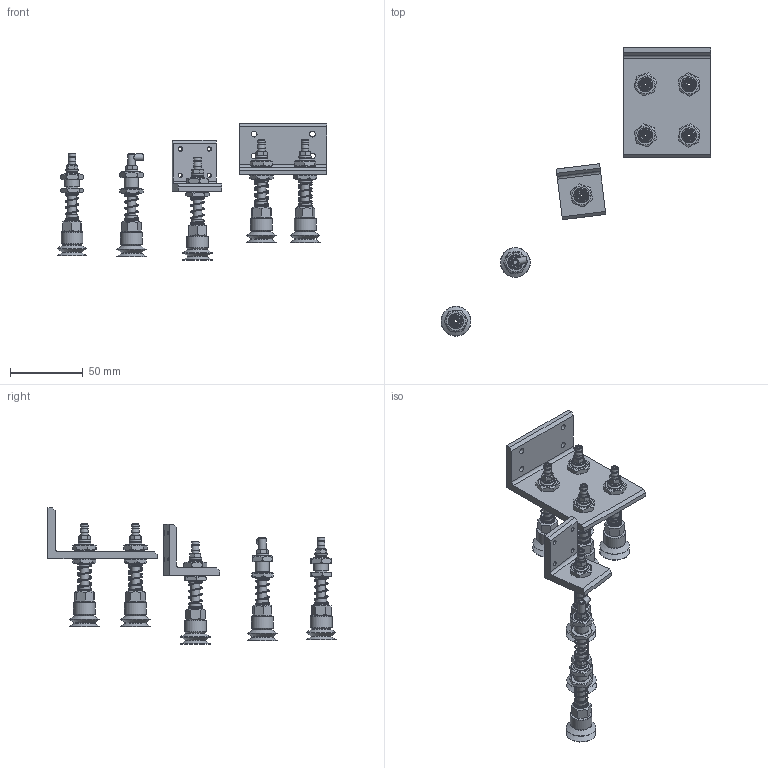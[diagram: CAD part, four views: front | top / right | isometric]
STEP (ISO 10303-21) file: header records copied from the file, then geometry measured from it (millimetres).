
FILE_DESCRIPTION(/* description */ (''),/* implementation_level */ '2;1');
FILE_NAME(/* name */ 'C:\Users\admin\Desktop\inventor\ventose pneumatiche\step\ventose.stp',/* time_stamp */ '2021-08-26T10:36:26+02:00',/* author */ ('admin'),/* organization */ (''),/* preprocessor_version */ 'ST-DEVELOPER v18.1',/* originating_system */ 'Autodesk Inventor 2022',/* authorisation */ '');
FILE_SCHEMA (('AUTOMOTIVE_DESIGN { 1 0 10303 214 3 1 1 }'));
Length unit declared in the file: millimetre
Products named in the file (15): Assieme_ventose; assieme_ventosa_pneumatica_silicone_90; attacco_90; assieme_ventosa_pneumatica_1x; assieme_ventosa_pneumatica_x4_v2; fermo_x4_ventosa; assieme_ventosa_pneumatica; R.03.01.Cup2; R.03.02.Tube; R.03.03.Spring; R.03.06.Nut; R.03.05.Interface; R.03.04.Fitting; DIN 3771 - 5 x 1,8 - N - NBR 70(2); fermo_ventosa
Assembly tree (31 placements, depth 4):
  Assieme_ventose
    assieme_ventosa_pneumatica_silicone_90
      R.03.01.Cup2
      R.03.02.Tube
      R.03.03.Spring
      R.03.06.Nut
      R.03.05.Interface
      DIN 3771 - 5 x 1,8 - N - NBR 70(2)
      attacco_90
    assieme_ventosa_pneumatica
      R.03.01.Cup2
      R.03.02.Tube
      R.03.03.Spring
      R.03.06.Nut
      R.03.05.Interface
      R.03.04.Fitting
      DIN 3771 - 5 x 1,8 - N - NBR 70(2)
    assieme_ventosa_pneumatica_1x
      R.03.01.Cup2
      R.03.02.Tube
      R.03.03.Spring
      R.03.06.Nut
      R.03.05.Interface
      R.03.04.Fitting
      DIN 3771 - 5 x 1,8 - N - NBR 70(2)
    assieme_ventosa_pneumatica_x4_v2
      fermo_x4_ventosa
      assieme_ventosa_pneumatica  x4
        R.03.01.Cup2
        R.03.02.Tube
        R.03.03.Spring
        R.03.06.Nut
        R.03.05.Interface
        R.03.04.Fitting
        DIN 3771 - 5 x 1,8 - N - NBR 70(2)
    fermo_ventosa
Bounding box: 185.19 x 197.64 x 93.46 mm (x, y, z)
Volume: 76727.1 mm3; surface area: 64461 mm2
Topology: 51 solids, 51 shells, 925 faces, 2015 edges, 1279 vertices
Faces by surface type: plane 391, cone 188, cylinder 156, torus 99, bspline 91
Full cylindrical faces by diameter (mm): 2 x7, 2.5 x7, 3 x12, 4 x4, 4.5 x1, 5 x35, 5.25 x6, 6 x14, 7 x14, 8 x14, 8.5 x7, 10 x19, 15 x7, 20.5 x7
Entity records: 7927 total; most frequent: CARTESIAN_POINT 2969, DIRECTION 958, ORIENTED_EDGE 850, EDGE_CURVE 425, AXIS2_PLACEMENT_3D 396, VERTEX_POINT 274, EDGE_LOOP 241, FACE_OUTER_BOUND 186
